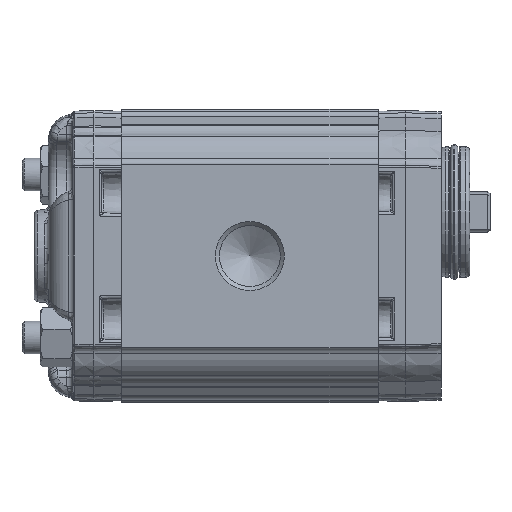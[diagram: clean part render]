
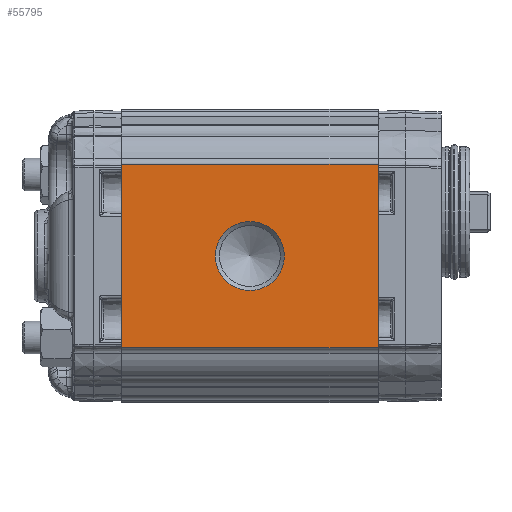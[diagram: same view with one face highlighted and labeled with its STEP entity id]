
A CAD part, left-side view. The second image highlights one B-rep face of the part: STEP entity #55795.
In plain terms, the highlighted planar face has unit normal (-1, 0, 0).
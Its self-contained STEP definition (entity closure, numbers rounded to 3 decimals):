
#4415=LINE('',#97656,#6315);
#4425=LINE('',#97757,#6325);
#4444=LINE('',#97805,#6344);
#4445=LINE('',#97807,#6345);
#6315=VECTOR('',#66059,1000.);
#6325=VECTOR('',#66151,1000.);
#6344=VECTOR('',#66206,1000.);
#6345=VECTOR('',#66209,1000.);
#12021=ORIENTED_EDGE('',*,*,#21439,.F.);
#12022=ORIENTED_EDGE('',*,*,#21537,.T.);
#12023=ORIENTED_EDGE('',*,*,#21509,.T.);
#12024=ORIENTED_EDGE('',*,*,#21538,.T.);
#12025=ORIENTED_EDGE('',*,*,#21459,.F.);
#21439=EDGE_CURVE('',#26468,#26468,#29600,.F.);
#21459=EDGE_CURVE('',#26489,#26490,#4415,.T.);
#21509=EDGE_CURVE('',#26540,#26539,#4425,.T.);
#21537=EDGE_CURVE('',#26489,#26540,#4444,.T.);
#21538=EDGE_CURVE('',#26539,#26490,#4445,.F.);
#26468=VERTEX_POINT('',#97612);
#26489=VERTEX_POINT('',#97655);
#26490=VERTEX_POINT('',#97657);
#26539=VERTEX_POINT('',#97756);
#26540=VERTEX_POINT('',#97758);
#29600=CIRCLE('',#59149,8.475);
#31972=EDGE_LOOP('',(#12021));
#31973=EDGE_LOOP('',(#12022,#12023,#12024,#12025));
#34767=FACE_BOUND('',#31972,.T.);
#34768=FACE_BOUND('',#31973,.T.);
#36662=PLANE('',#59245);
#55795=ADVANCED_FACE('',(#34767,#34768),#36662,.T.);
#59149=AXIS2_PLACEMENT_3D('',#97611,#66016,#66017);
#59245=AXIS2_PLACEMENT_3D('',#97834,#66252,#66253);
#66016=DIRECTION('',(1.,0.,0.));
#66017=DIRECTION('',(0.,0.,-1.));
#66059=DIRECTION('',(0.,0.,1.));
#66151=DIRECTION('',(0.,0.,1.));
#66206=DIRECTION('',(0.,-1.,0.));
#66209=DIRECTION('',(0.,-1.,0.));
#66252=DIRECTION('',(-1.,0.,0.));
#66253=DIRECTION('',(0.,0.,1.));
#97611=CARTESIAN_POINT('',(-33.,31.5,0.));
#97612=CARTESIAN_POINT('',(-33.,31.5,-8.475));
#97655=CARTESIAN_POINT('',(-33.,63.,-22.5));
#97656=CARTESIAN_POINT('',(-33.,63.,-21.711));
#97657=CARTESIAN_POINT('',(-33.,63.,22.5));
#97756=CARTESIAN_POINT('',(-33.,0.,22.5));
#97757=CARTESIAN_POINT('',(-33.,0.,-21.711));
#97758=CARTESIAN_POINT('',(-33.,0.,-22.5));
#97805=CARTESIAN_POINT('',(-33.,63.,-22.5));
#97807=CARTESIAN_POINT('',(-33.,63.,22.5));
#97834=CARTESIAN_POINT('',(-33.,133.537,48.138));
